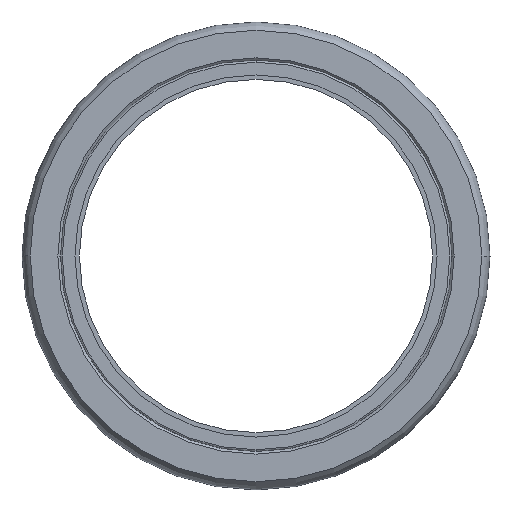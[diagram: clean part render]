
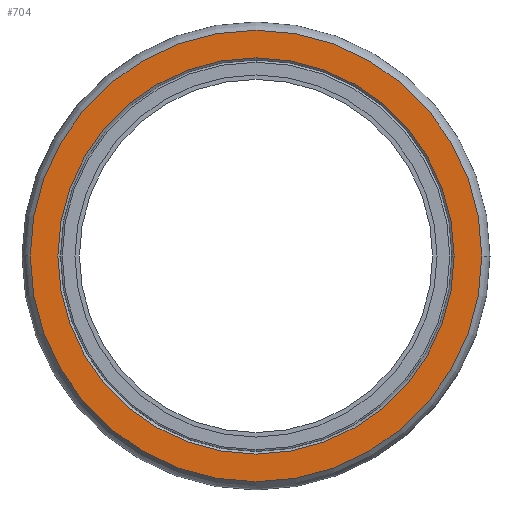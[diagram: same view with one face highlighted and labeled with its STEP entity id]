
A CAD part, left-side view. The second image highlights one B-rep face of the part: STEP entity #704.
In plain terms, the highlighted planar face has unit normal (-1, 0, 0).
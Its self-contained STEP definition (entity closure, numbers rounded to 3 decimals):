
#153=CARTESIAN_POINT('',(2.05,0.,0.));
#154=DIRECTION('',(1.,0.,0.));
#155=DIRECTION('',(0.,1.,0.));
#156=AXIS2_PLACEMENT_3D('',#153,#154,#155);
#175=CARTESIAN_POINT('',(2.05,0.,0.));
#176=DIRECTION('',(1.,0.,0.));
#177=DIRECTION('',(0.,-1.,0.));
#178=AXIS2_PLACEMENT_3D('',#175,#176,#177);
#197=CARTESIAN_POINT('',(2.05,0.,0.));
#198=DIRECTION('',(-1.,0.,0.));
#199=DIRECTION('',(0.,-1.,0.));
#200=AXIS2_PLACEMENT_3D('',#197,#198,#199);
#293=CARTESIAN_POINT('',(2.05,0.,0.));
#294=DIRECTION('',(-1.,0.,0.));
#295=DIRECTION('',(0.,1.,0.));
#296=AXIS2_PLACEMENT_3D('',#293,#294,#295);
#343=CARTESIAN_POINT('',(2.05,25.564,0.));
#344=CARTESIAN_POINT('',(2.05,-25.564,0.));
#345=VERTEX_POINT('',#343);
#346=VERTEX_POINT('',#344);
#347=CARTESIAN_POINT('',(2.05,-22.436,0.));
#348=CARTESIAN_POINT('',(2.05,22.436,0.));
#349=VERTEX_POINT('',#347);
#350=VERTEX_POINT('',#348);
#689=CARTESIAN_POINT('',(2.05,0.,0.));
#690=DIRECTION('',(-1.,0.,0.));
#691=DIRECTION('',(0.,1.,0.));
#692=AXIS2_PLACEMENT_3D('',#689,#690,#691);
#693=PLANE('',#692);
#694=ORIENTED_EDGE('',*,*,#638,.T.);
#695=ORIENTED_EDGE('',*,*,#675,.T.);
#696=EDGE_LOOP('',(#694,#695));
#697=FACE_OUTER_BOUND('',#696,.F.);
#699=ORIENTED_EDGE('',*,*,#698,.T.);
#701=ORIENTED_EDGE('',*,*,#700,.T.);
#702=EDGE_LOOP('',(#699,#701));
#703=FACE_BOUND('',#702,.F.);
#157=CIRCLE('',#156,25.564);
#179=CIRCLE('',#178,25.564);
#201=CIRCLE('',#200,22.436);
#297=CIRCLE('',#296,22.436);
#638=EDGE_CURVE('',#345,#346,#157,.T.);
#675=EDGE_CURVE('',#346,#345,#179,.T.);
#698=EDGE_CURVE('',#349,#350,#201,.T.);
#700=EDGE_CURVE('',#350,#349,#297,.T.);
#704=ADVANCED_FACE('',(#697,#703),#693,.T.);
